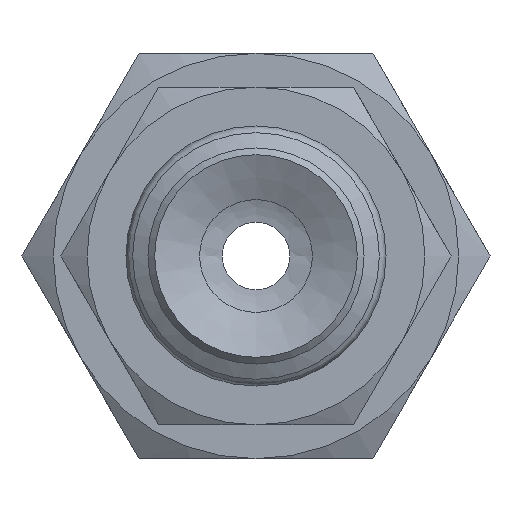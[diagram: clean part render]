
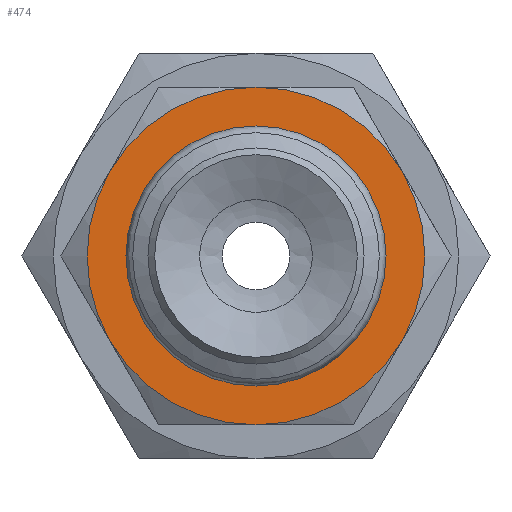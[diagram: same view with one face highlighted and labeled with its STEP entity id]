
A CAD part, front view. The second image highlights one B-rep face of the part: STEP entity #474.
In plain terms, the highlighted planar face has unit normal (0, -1, 0).
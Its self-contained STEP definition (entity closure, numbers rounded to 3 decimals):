
#474=ADVANCED_FACE('',(#619,#620),#621,.T.);
#619=FACE_BOUND('',#913,.T.);
#620=FACE_OUTER_BOUND('',#914,.T.);
#621=PLANE('',#915);
#913=EDGE_LOOP('',(#1325));
#914=EDGE_LOOP('',(#1326,#1327,#1328,#1329,#1330,#1331));
#915=AXIS2_PLACEMENT_3D('',#1332,#1333,#1334);
#1325=ORIENTED_EDGE('',*,*,#1993,.F.);
#1326=ORIENTED_EDGE('',*,*,#1967,.T.);
#1327=ORIENTED_EDGE('',*,*,#2001,.T.);
#1328=ORIENTED_EDGE('',*,*,#1981,.T.);
#1329=ORIENTED_EDGE('',*,*,#1983,.T.);
#1330=ORIENTED_EDGE('',*,*,#2002,.T.);
#1331=ORIENTED_EDGE('',*,*,#2003,.T.);
#1332=CARTESIAN_POINT('',(2.0,0.,0.0));
#1333=DIRECTION('',(0.0,-1.0,0.0));
#1334=DIRECTION('',(0.0,0.0,-1.0));
#1967=EDGE_CURVE('',#2176,#2182,#2184,.T.);
#1981=EDGE_CURVE('',#2207,#2200,#2209,.T.);
#1983=EDGE_CURVE('',#2200,#2210,#2212,.T.);
#1993=EDGE_CURVE('',#2226,#2226,#2227,.T.);
#2001=EDGE_CURVE('',#2182,#2207,#2241,.T.);
#2002=EDGE_CURVE('',#2210,#2159,#2242,.T.);
#2003=EDGE_CURVE('',#2159,#2176,#2243,.T.);
#2159=VERTEX_POINT('',#2511);
#2176=VERTEX_POINT('',#2541);
#2182=VERTEX_POINT('',#2554);
#2184=CIRCLE('',#2558,5.0);
#2200=VERTEX_POINT('',#2586);
#2207=VERTEX_POINT('',#2600);
#2209=CIRCLE('',#2604,5.0);
#2210=VERTEX_POINT('',#2605);
#2212=CIRCLE('',#2609,5.0);
#2226=VERTEX_POINT('',#2628);
#2227=CIRCLE('',#2629,2.0);
#2241=CIRCLE('',#2645,5.0);
#2242=CIRCLE('',#2646,5.0);
#2243=CIRCLE('',#2647,5.0);
#2511=CARTESIAN_POINT('',(-4.33,0.0,-2.5));
#2541=CARTESIAN_POINT('',(0.0,0.0,-5.0));
#2554=CARTESIAN_POINT('',(4.33,0.0,-2.5));
#2558=AXIS2_PLACEMENT_3D('',#3233,#3234,#3235);
#2586=CARTESIAN_POINT('',(0.0,0.0,5.0));
#2600=CARTESIAN_POINT('',(4.33,0.0,2.5));
#2604=AXIS2_PLACEMENT_3D('',#3242,#3243,#3244);
#2605=CARTESIAN_POINT('',(-4.33,0.,2.5));
#2609=AXIS2_PLACEMENT_3D('',#3245,#3246,#3247);
#2628=CARTESIAN_POINT('',(0.0,0.,-2.0));
#2629=AXIS2_PLACEMENT_3D('',#3267,#3268,#3269);
#2645=AXIS2_PLACEMENT_3D('',#3288,#3289,#3290);
#2646=AXIS2_PLACEMENT_3D('',#3291,#3292,#3293);
#2647=AXIS2_PLACEMENT_3D('',#3294,#3295,#3296);
#3233=CARTESIAN_POINT('',(0.0,0.,0.0));
#3234=DIRECTION('',(0.0,-1.0,0.0));
#3235=DIRECTION('',(0.0,0.0,-1.0));
#3242=CARTESIAN_POINT('',(0.0,0.,0.0));
#3243=DIRECTION('',(0.0,-1.0,0.0));
#3244=DIRECTION('',(0.0,0.0,-1.0));
#3245=CARTESIAN_POINT('',(0.0,0.,0.0));
#3246=DIRECTION('',(0.0,-1.0,0.0));
#3247=DIRECTION('',(0.0,0.0,-1.0));
#3267=CARTESIAN_POINT('',(0.0,0.,0.0));
#3268=DIRECTION('',(0.0,-1.0,0.0));
#3269=DIRECTION('',(0.0,0.0,-1.0));
#3288=CARTESIAN_POINT('',(0.0,0.,0.0));
#3289=DIRECTION('',(0.0,-1.0,0.0));
#3290=DIRECTION('',(0.0,0.0,-1.0));
#3291=CARTESIAN_POINT('',(0.0,0.,0.0));
#3292=DIRECTION('',(0.0,-1.0,0.0));
#3293=DIRECTION('',(0.0,0.0,-1.0));
#3294=CARTESIAN_POINT('',(0.0,0.,0.0));
#3295=DIRECTION('',(0.0,-1.0,0.0));
#3296=DIRECTION('',(0.0,0.0,-1.0));
